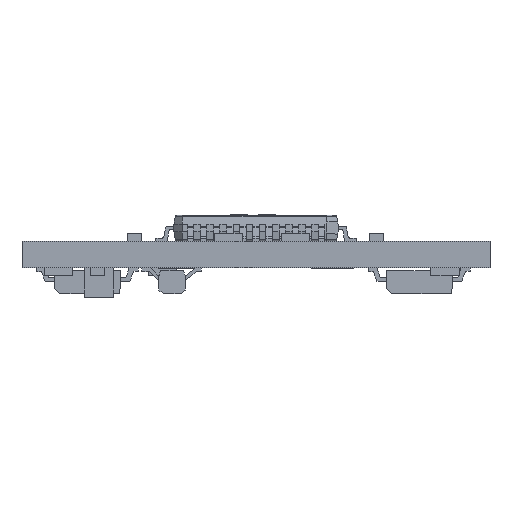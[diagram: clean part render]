
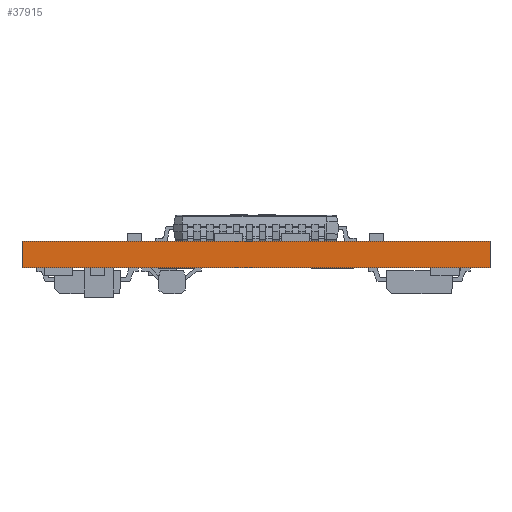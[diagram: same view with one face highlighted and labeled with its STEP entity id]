
A CAD part, left-side view. The second image highlights one B-rep face of the part: STEP entity #37915.
In plain terms, the highlighted planar face has unit normal (-1, 0, 0).
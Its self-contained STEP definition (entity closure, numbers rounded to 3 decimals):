
#351 = CARTESIAN_POINT ( 'NONE',  ( -9.25, -9.248, -1.6 ) ) ;
#516 = CARTESIAN_POINT ( 'NONE',  ( -9.25, 19.252, -1.6 ) ) ;
#696 = VECTOR ( 'NONE', #11911, 1000. ) ;
#1089 = VERTEX_POINT ( 'NONE', #6110 ) ;
#1646 = CARTESIAN_POINT ( 'NONE',  ( -9.25, 19.252, -1.6 ) ) ;
#1814 = ORIENTED_EDGE ( 'NONE', *, *, #24785, .T. ) ;
#2105 = CARTESIAN_POINT ( 'NONE',  ( -9.25, -9.248, 0. ) ) ;
#3910 = DIRECTION ( 'NONE',  ( 0., 0., -1. ) ) ;
#6110 = CARTESIAN_POINT ( 'NONE',  ( -9.25, 19.252, 0. ) ) ;
#6377 = CARTESIAN_POINT ( 'NONE',  ( -9.25, 19.252, -1.6 ) ) ;
#7863 = ORIENTED_EDGE ( 'NONE', *, *, #24353, .F. ) ;
#8531 = VERTEX_POINT ( 'NONE', #351 ) ;
#8653 = LINE ( 'NONE', #40145, #16547 ) ;
#11911 = DIRECTION ( 'NONE',  ( 0., 1., 0. ) ) ;
#13816 = LINE ( 'NONE', #33323, #39585 ) ;
#15254 = AXIS2_PLACEMENT_3D ( 'NONE', #516, #24024, #3910 ) ;
#16547 = VECTOR ( 'NONE', #43516, 1000. ) ;
#17152 = PLANE ( 'NONE',  #15254 ) ;
#22919 = LINE ( 'NONE', #6377, #31885 ) ;
#23594 = VERTEX_POINT ( 'NONE', #2105 ) ;
#24008 = EDGE_LOOP ( 'NONE', ( #1814, #36769, #7863, #42059 ) ) ;
#24024 = DIRECTION ( 'NONE',  ( 1., 0., 0. ) ) ;
#24061 = EDGE_CURVE ( 'NONE', #8531, #23594, #8653, .T. ) ;
#24353 = EDGE_CURVE ( 'NONE', #8531, #32065, #26456, .T. ) ;
#24785 = EDGE_CURVE ( 'NONE', #23594, #1089, #13816, .T. ) ;
#26456 = LINE ( 'NONE', #32036, #696 ) ;
#26486 = DIRECTION ( 'NONE',  ( 0., 0., 1. ) ) ;
#28957 = FACE_OUTER_BOUND ( 'NONE', #24008, .T. ) ;
#31885 = VECTOR ( 'NONE', #26486, 1000. ) ;
#32036 = CARTESIAN_POINT ( 'NONE',  ( -9.25, 19.252, -1.6 ) ) ;
#32065 = VERTEX_POINT ( 'NONE', #1646 ) ;
#33323 = CARTESIAN_POINT ( 'NONE',  ( -9.25, 19.252, 0. ) ) ;
#36661 = DIRECTION ( 'NONE',  ( 0., 1., 0. ) ) ;
#36769 = ORIENTED_EDGE ( 'NONE', *, *, #38383, .F. ) ;
#37915 = ADVANCED_FACE ( 'NONE', ( #28957 ), #17152, .F. ) ;
#38383 = EDGE_CURVE ( 'NONE', #32065, #1089, #22919, .T. ) ;
#39585 = VECTOR ( 'NONE', #36661, 1000. ) ;
#40145 = CARTESIAN_POINT ( 'NONE',  ( -9.25, -9.248, -1.6 ) ) ;
#42059 = ORIENTED_EDGE ( 'NONE', *, *, #24061, .T. ) ;
#43516 = DIRECTION ( 'NONE',  ( 0., 0., 1. ) ) ;
